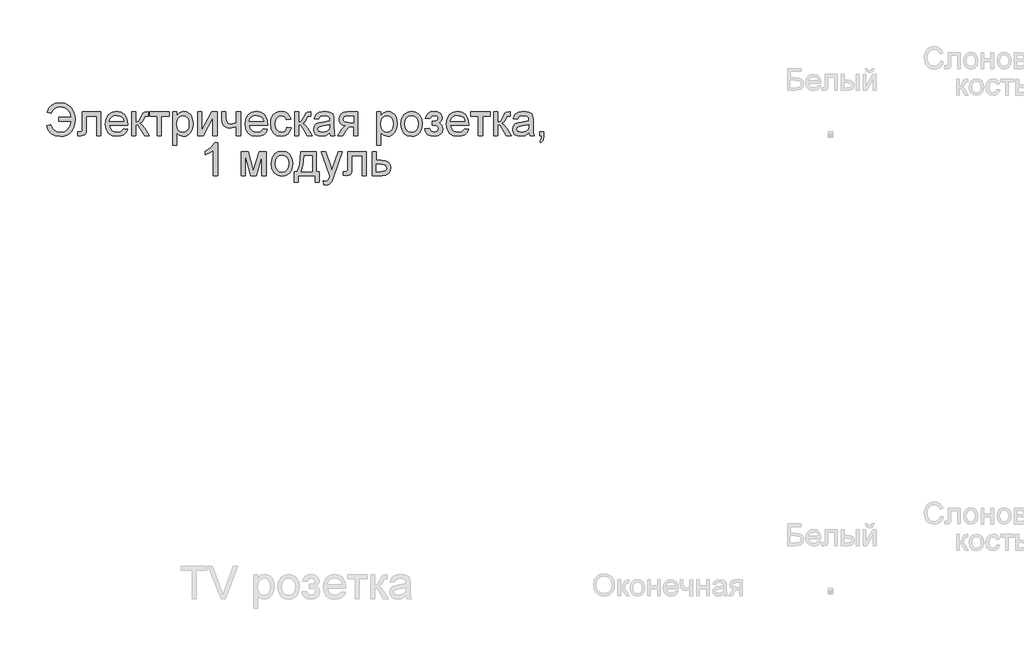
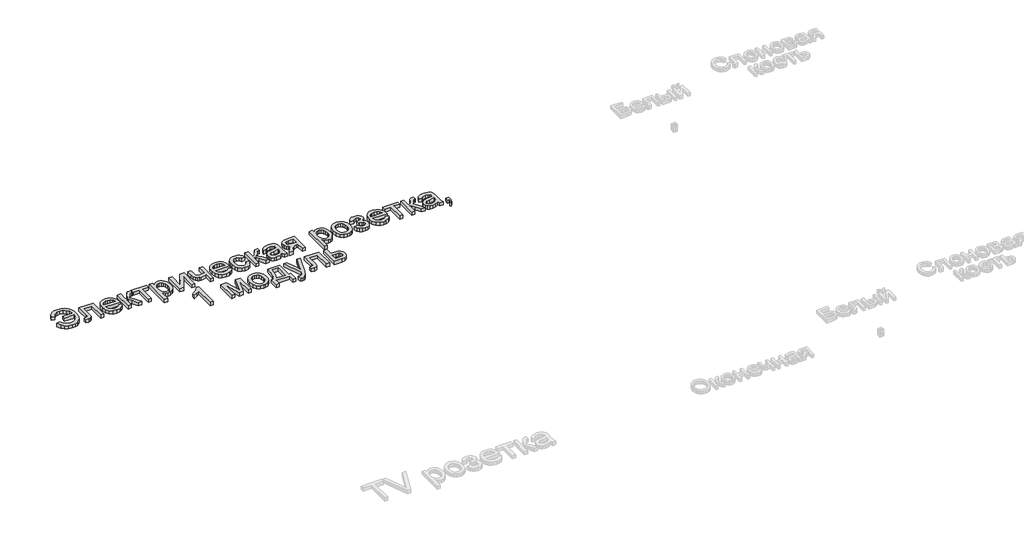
# One storey, part 10 of 47: 1 proxy.
"""IFC4 building model written with IfcOpenShell, lengths in millimetres."""

from ifc_helpers import new_model, si_unit, origin, origin_with_axes, place, context, project, spatial, polyline, outline, extrude, element, save

model = new_model("IFC4")

# Units and contexts
model_context = context("Model", 3, world=origin())
ifc_project = project(units=[si_unit("LENGTHUNIT", "METRE", prefix="MILLI")], contexts=[model_context])

# Site, building, storey
site = spatial("IfcSite", under=ifc_project)
building = spatial("IfcBuilding", under=site)
storey = spatial("IfcBuildingStorey", under=building, Name="Этаж 01", Elevation=0.0)

# Proxy
placement = place(None, origin())
element("IfcBuildingElementProxy", 1, Name="150 мм Arial", ObjectType="150 мм Arial", at=placement, inside=storey, context=model_context, shape_type="SweptSolid", body=[
    extrude(outline(polyline([(-3554.1831348, -13254.0696827), (-3497.6764603, -13254.0696827), (-3501.8243298, -13234.6409148), (-3511.7663407, -13219.6911103), (-3527.0518376, -13210.1583681), (-3547.2301651, -13206.9807873), (-3562.4397863, -13208.8937737), (-3574.5546002, -13214.6327328), (-3583.5746069, -13224.1976647), (-3589.4998063, -13237.5885693), (-3608.3353645, -13232.8796798), (-3600.2787488, -13214.1360921), (-3587.1453615, -13199.9910294), (-3569.5697992, -13191.1066792), (-3548.1866582, -13188.1452292), (-3527.6496459, -13190.8629574), (-3510.1844481, -13199.0161421), (-3496.3106984, -13211.3953713), (-3486.54803, -13226.7912328), (-3480.7676841, -13244.5921228), (-3478.8409022, -13264.1864376), (-3482.3265841, -13295.0747296), (-3495.0644981, -13320.6379297), (-3504.8846481, -13330.656966), (-3516.981068, -13337.8134204), (-3531.3537577, -13342.1072931), (-3548.0027172, -13343.5385839), (-3570.5446865, -13340.4483752), (-3588.5065249, -13331.1777489), (-3601.8882325, -13315.7267051), (-3610.6898092, -13294.0952438), (-3591.8542511, -13289.3863542), (-3585.4898926, -13304.837398), (-3575.7042315, -13315.8738579), (-3562.4972679, -13322.4957338), (-3545.8690017, -13324.7030258), (-3527.0886258, -13321.235738), (-3512.0238581, -13310.8338746), (-3501.8335269, -13294.4171405), (-3497.6764603, -13272.9052409), (-3554.1831348, -13272.9052409), (-3554.1831348, -13254.0696827)])), origin_with_axes(), (0.0, 0.0, 1.0), 20.0),
    extrude(outline(polyline([(-3445.8786754, -13230.525235), (-3361.1186637, -13230.525235), (-3361.1186637, -13341.0737746), (-3379.9542219, -13341.0737746), (-3379.9542219, -13249.3607932), (-3427.0431172, -13249.3607932), (-3427.0431172, -13302.1518595), (-3428.3123101, -13326.5056476), (-3435.2836739, -13336.7879493), (-3451.7647873, -13341.1841392), (-3467.0686783, -13340.227646), (-3467.0686783, -13322.348581), (-3458.6441806, -13322.348581), (-3450.1277124, -13321.1897527), (-3446.724804, -13317.5109328), (-3445.8786754, -13301.0850017), (-3445.8786754, -13230.525235)])), origin_with_axes(), (0.0, 0.0, 1.0), 20.0),
    extrude(outline(polyline([(-3255.3893783, -13308.2219124), (-3236.9217021, -13310.5763572), (-3243.5757677, -13324.4914936), (-3254.1937618, -13334.8933571), (-3268.5365611, -13341.3772772), (-3286.3650423, -13343.5385839), (-3308.4655531, -13339.8091802), (-3325.4708984, -13328.620969), (-3336.3142202, -13310.7005173), (-3339.9286608, -13286.7743921), (-3336.277432, -13262.043525), (-3325.3237456, -13243.5482576), (-3308.5483266, -13232.0151571), (-3287.4319001, -13228.1707903), (-3266.9730626, -13232.0059601), (-3250.6253064, -13243.5114694), (-3239.9061448, -13261.9699486), (-3236.3330909, -13286.6640275), (-3236.4434555, -13291.740799), (-3321.0931026, -13291.740799), (-3317.8327484, -13305.8398765), (-3310.2589779, -13316.2049517), (-3299.3282841, -13322.5785073), (-3285.9971603, -13324.7030258), (-3267.5294841, -13320.7666884), (-3255.3893783, -13308.2219124)]), holes=[polyline([(-3321.0931026, -13272.9052409), (-3255.1686491, -13272.9052409), (-3257.7162319, -13262.9540329), (-3262.71023, -13255.8355163), (-3273.6915075, -13249.2136404), (-3287.5054765, -13247.0063484), (-3300.2020038, -13248.7675835), (-3310.7004363, -13254.0512886), (-3317.9982953, -13262.2872468), (-3321.0931026, -13272.9052409)])]), origin_with_axes(), (0.0, 0.0, 1.0), 20.0),
    extrude(outline(polyline([(-3217.4975328, -13230.525235), (-3198.6619746, -13230.525235), (-3198.6619746, -13277.6141304), (-3186.0436222, -13274.229616), (-3175.7061381, -13254.5111411), (-3167.1160935, -13237.4965988), (-3159.5377244, -13231.9599748), (-3145.7605437, -13230.525235), (-3142.1553002, -13230.525235), (-3142.1553002, -13249.4711578), (-3147.2320717, -13249.3607932), (-3156.4291216, -13251.3473559), (-3162.9038447, -13263.7449792), (-3170.5006079, -13277.1542779), (-3181.1507917, -13283.7209715), (-3169.2682032, -13291.0510203), (-3157.606344, -13306.492867), (-3137.4464106, -13341.1841392), (-3158.8571427, -13341.1841392), (-3178.6124059, -13307.228631), (-3188.5452198, -13292.8628391), (-3198.6619746, -13289.3863542), (-3198.6619746, -13341.1841392), (-3217.4975328, -13341.1841392), (-3217.4975328, -13230.525235)])), origin_with_axes(), (0.0, 0.0, 1.0), 20.0),
    extrude(outline(polyline([(-3135.0919659, -13230.525235), (-3045.6230646, -13230.525235), (-3045.6230646, -13249.3607932), (-3080.9397362, -13249.3607932), (-3080.9397362, -13341.1841392), (-3099.7752943, -13341.1841392), (-3099.7752943, -13249.3607932), (-3135.0919659, -13249.3607932), (-3135.0919659, -13230.525235)])), origin_with_axes(), (0.0, 0.0, 1.0), 20.0),
    extrude(outline(polyline([(-3029.1419512, -13383.564145), (-3029.1419512, -13230.525235), (-3010.3063931, -13230.525235), (-3010.3063931, -13248.9929112), (-2997.2833705, -13233.3763205), (-2979.6986111, -13228.1707903), (-2966.960697, -13229.9918061), (-2955.8230696, -13235.4548538), (-2946.7547784, -13244.2288393), (-2940.224873, -13255.9826691), (-2934.9641605, -13285.0085585), (-2936.449484, -13301.1171914), (-2940.9054547, -13315.52437), (-2948.1895182, -13327.4989289), (-2958.1591203, -13336.3097027), (-2969.7703958, -13341.7313636), (-2981.9794795, -13343.5385839), (-2998.3686224, -13338.7009357), (-3010.3063931, -13326.4688594), (-3010.3063931, -13383.564145), (-3029.1419512, -13383.564145)]), holes=[polyline([(-3010.3063931, -13286.7376039), (-3008.2692465, -13303.6233875), (-3002.1578069, -13315.4323995), (-2993.1400995, -13322.3853692), (-2982.3841497, -13324.7030258), (-2971.4534559, -13322.3025958), (-2962.2058222, -13315.1013057), (-2955.9012445, -13302.8600323), (-2953.7997186, -13285.3396523), (-2955.8506608, -13268.5458392), (-2962.0034871, -13256.5712803), (-2971.007399, -13249.3975814), (-2981.6115975, -13247.0063484), (-2992.2571827, -13249.5493327), (-3001.6059839, -13257.1782856), (-3008.1312908, -13269.6540837), (-3010.3063931, -13286.7376039)])]), origin_with_axes(), (0.0, 0.0, 1.0), 20.0),
    extrude(outline(polyline([(-2913.7741576, -13230.525235), (-2894.9385994, -13230.525235), (-2894.9385994, -13314.9173647), (-2848.6590444, -13230.525235), (-2824.3052563, -13230.525235), (-2824.3052563, -13341.1841392), (-2843.1408145, -13341.1841392), (-2843.1408145, -13257.3070443), (-2889.1260639, -13341.1841392), (-2913.7741576, -13341.1841392), (-2913.7741576, -13230.525235)])), origin_with_axes(), (0.0, 0.0, 1.0), 20.0),
    extrude(outline(polyline([(-2803.1152534, -13230.525235), (-2784.2796953, -13230.525235), (-2784.2796953, -13251.7520261), (-2782.752985, -13271.6544421), (-2775.4137392, -13282.4333845), (-2760.8456122, -13287.0319095), (-2734.8363551, -13281.3297386), (-2734.8363551, -13230.525235), (-2716.000797, -13230.525235), (-2716.000797, -13341.1841392), (-2734.8363551, -13341.1841392), (-2734.8363551, -13299.3927445), (-2765.8855955, -13305.8674676), (-2777.2761418, -13304.179809), (-2787.2411453, -13299.116833), (-2795.0080539, -13291.6074418), (-2799.8043155, -13282.5805373), (-2803.1152534, -13261.0594406), (-2803.1152534, -13230.525235)])), origin_with_axes(), (0.0, 0.0, 1.0), 20.0),
    extrude(outline(polyline([(-2610.2715115, -13308.2219124), (-2591.8038354, -13310.5763572), (-2598.457901, -13324.4914936), (-2609.0758951, -13334.8933571), (-2623.4186943, -13341.3772772), (-2641.2471755, -13343.5385839), (-2663.3476864, -13339.8091802), (-2680.3530316, -13328.620969), (-2691.1963534, -13310.7005173), (-2694.810794, -13286.7743921), (-2691.1595652, -13262.043525), (-2680.2058788, -13243.5482576), (-2663.4304598, -13232.0151571), (-2642.3140333, -13228.1707903), (-2621.8551959, -13232.0059601), (-2605.5074397, -13243.5114694), (-2594.7882781, -13261.9699486), (-2591.2152242, -13286.6640275), (-2591.3255888, -13291.740799), (-2675.9752359, -13291.740799), (-2672.7148817, -13305.8398765), (-2665.1411111, -13316.2049517), (-2654.2104173, -13322.5785073), (-2640.8792935, -13324.7030258), (-2622.4116174, -13320.7666884), (-2610.2715115, -13308.2219124)]), holes=[polyline([(-2675.9752359, -13272.9052409), (-2610.0507823, -13272.9052409), (-2612.5983652, -13262.9540329), (-2617.5923632, -13255.8355163), (-2628.5736408, -13249.2136404), (-2642.3876097, -13247.0063484), (-2655.0841371, -13248.7675835), (-2665.5825695, -13254.0512886), (-2672.8804286, -13262.2872468), (-2675.9752359, -13272.9052409)])]), origin_with_axes(), (0.0, 0.0, 1.0), 20.0),
    extrude(outline(polyline([(-2501.746323, -13301.1585781), (-2482.9107648, -13303.5130229), (-2488.1622803, -13320.2654492), (-2498.0307148, -13332.9251884), (-2511.5871663, -13340.885235), (-2527.9027328, -13343.5385839), (-2547.938506, -13339.8367714), (-2563.6056805, -13328.7313336), (-2573.7178368, -13310.7097144), (-2577.0885556, -13286.2593573), (-2575.6492173, -13269.4977339), (-2571.3312024, -13254.9709936), (-2564.0655329, -13243.2401565), (-2553.7832312, -13234.8662426), (-2541.482177, -13229.8446533), (-2528.1602502, -13228.1707903), (-2512.2447554, -13230.4700527), (-2499.5206369, -13237.3678401), (-2490.3925649, -13248.4962705), (-2485.2652096, -13263.4874618), (-2504.1007677, -13265.8419066), (-2512.8379651, -13251.733632), (-2528.0130974, -13247.0063484), (-2540.1853929, -13249.333202), (-2549.8468938, -13256.3137629), (-2556.1514715, -13268.32511), (-2558.2529974, -13285.7443225), (-2556.1974568, -13303.3980597), (-2550.0308348, -13315.4507936), (-2540.5440779, -13322.3899677), (-2528.5281322, -13324.7030258), (-2518.7746608, -13323.259089), (-2510.7778259, -13318.9272785), (-2504.9606919, -13311.5972297), (-2501.746323, -13301.1585781)])), origin_with_axes(), (0.0, 0.0, 1.0), 20.0),
    extrude(outline(polyline([(-2466.4296514, -13230.525235), (-2447.5940933, -13230.525235), (-2447.5940933, -13277.6141304), (-2434.9757408, -13274.229616), (-2424.6382568, -13254.5111411), (-2416.0482122, -13237.4965988), (-2408.4698431, -13231.9599748), (-2394.6926624, -13230.525235), (-2391.0874188, -13230.525235), (-2391.0874188, -13249.4711578), (-2396.1641903, -13249.3607932), (-2405.3612402, -13251.3473559), (-2411.8359633, -13263.7449792), (-2419.4327265, -13277.1542779), (-2430.0829103, -13283.7209715), (-2418.2003219, -13291.0510203), (-2406.5384626, -13306.492867), (-2386.3785293, -13341.1841392), (-2407.7892614, -13341.1841392), (-2427.5445245, -13307.228631), (-2437.4773384, -13292.8628391), (-2447.5940933, -13289.3863542), (-2447.5940933, -13341.1841392), (-2466.4296514, -13341.1841392), (-2466.4296514, -13230.525235)])), origin_with_axes(), (0.0, 0.0, 1.0), 20.0),
    extrude(outline(polyline([(-2303.9729624, -13327.0574706), (-2322.2383034, -13339.8229758), (-2342.4166309, -13343.5385839), (-2358.1573817, -13341.3037008), (-2369.7686572, -13334.5990515), (-2376.9285605, -13324.4179172), (-2379.315195, -13311.7535796), (-2375.7099514, -13296.8543587), (-2366.23699, -13286.0386281), (-2353.0484205, -13279.8582106), (-2336.7512481, -13277.0255192), (-2304.083327, -13270.5507961), (-2303.9729624, -13266.3569413), (-2305.2697464, -13257.9508378), (-2309.1600985, -13252.4510019), (-2317.8605077, -13248.3675118), (-2329.9822194, -13247.0063484), (-2349.0385068, -13250.6299861), (-2358.125192, -13263.4874618), (-2376.9607502, -13261.133017), (-2368.812164, -13242.7389173), (-2352.404627, -13231.9599748), (-2327.5541982, -13228.1707903), (-2304.7271204, -13231.5185164), (-2291.8328565, -13239.92462), (-2286.0571092, -13252.7085193), (-2285.1374042, -13269.1896327), (-2285.1374042, -13292.6237158), (-2284.180911, -13325.3468193), (-2280.4285147, -13341.1841392), (-2299.2640728, -13341.1841392), (-2303.9729624, -13327.0574706)]), holes=[polyline([(-2303.9729624, -13289.3863542), (-2334.3600152, -13295.1621016), (-2350.565217, -13298.2155221), (-2357.9044629, -13303.1819291), (-2360.4796368, -13310.4292044), (-2354.8694364, -13320.6195356), (-2338.4067171, -13324.7030258), (-2319.3504298, -13320.1964713), (-2307.0631711, -13309.2887702), (-2304.083327, -13294.7206432), (-2303.9729624, -13289.3863542)])]), origin_with_axes(), (0.0, 0.0, 1.0), 20.0),
    extrude(outline(polyline([(-2174.4785001, -13230.525235), (-2174.4785001, -13341.1841392), (-2193.3140582, -13341.1841392), (-2193.3140582, -13298.8041333), (-2203.5779659, -13298.8041333), (-2217.5574817, -13301.1953663), (-2230.6908689, -13317.2718095), (-2245.7004543, -13341.1841392), (-2267.4790684, -13341.1841392), (-2248.5699339, -13310.9442392), (-2240.2190126, -13300.0917203), (-2232.5302789, -13295.2724662), (-2245.4061487, -13291.3269318), (-2254.4560458, -13283.8313361), (-2259.8087288, -13273.8617341), (-2261.5929565, -13262.4941804), (-2259.1557383, -13249.5999165), (-2251.8440836, -13239.3911911), (-2239.9155099, -13232.741724), (-2223.6275346, -13230.525235), (-2174.4785001, -13230.525235)]), holes=[polyline([(-2193.3140582, -13249.3607932), (-2218.1460929, -13249.3607932), (-2230.9713789, -13250.4506436), (-2238.2508439, -13253.7201948), (-2242.7573984, -13263.9289202), (-2241.0973309, -13271.1072176), (-2236.1171283, -13276.0874201), (-2212.5910748, -13279.9685752), (-2193.3140582, -13279.9685752), (-2193.3140582, -13249.3607932)])]), origin_with_axes(), (0.0, 0.0, 1.0), 20.0),
    extrude(outline(polyline([(-2087.3640436, -13383.564145), (-2087.3640436, -13230.525235), (-2068.5284854, -13230.525235), (-2068.5284854, -13248.9929112), (-2055.5054628, -13233.3763205), (-2037.9207034, -13228.1707903), (-2025.1827894, -13229.9918061), (-2014.045162, -13235.4548538), (-2004.9768708, -13244.2288393), (-1998.4469654, -13255.9826691), (-1993.1862528, -13285.0085585), (-1994.6715764, -13301.1171914), (-1999.1275471, -13315.52437), (-2006.4116106, -13327.4989289), (-2016.3812126, -13336.3097027), (-2027.9924881, -13341.7313636), (-2040.2015718, -13343.5385839), (-2056.5907147, -13338.7009357), (-2068.5284854, -13326.4688594), (-2068.5284854, -13383.564145), (-2087.3640436, -13383.564145)]), holes=[polyline([(-2068.5284854, -13286.7376039), (-2066.4913389, -13303.6233875), (-2060.3798993, -13315.4323995), (-2051.3621918, -13322.3853692), (-2040.606242, -13324.7030258), (-2029.6755482, -13322.3025958), (-2020.4279146, -13315.1013057), (-2014.1233369, -13302.8600323), (-2012.021811, -13285.3396523), (-2014.0727531, -13268.5458392), (-2020.2255795, -13256.5712803), (-2029.2294913, -13249.3975814), (-2039.8336898, -13247.0063484), (-2050.4792751, -13249.5493327), (-2059.8280763, -13257.1782856), (-2066.3533831, -13269.6540837), (-2068.5284854, -13286.7376039)])]), origin_with_axes(), (0.0, 0.0, 1.0), 20.0),
    extrude(outline(polyline([(-1976.7051394, -13285.8546871), (-1972.6308464, -13259.1740454), (-1960.4079671, -13240.4212607), (-1945.3064112, -13231.2334079), (-1927.2250111, -13228.1707903), (-1907.4375583, -13231.900194), (-1891.6324281, -13243.0884052), (-1881.2719514, -13260.852507), (-1877.8184591, -13284.3095827), (-1879.3451694, -13303.3382789), (-1883.9253003, -13317.8236325), (-1891.4254944, -13328.6715528), (-1901.7123947, -13336.7879493), (-1913.9306755, -13341.8509253), (-1927.2250111, -13343.5385839), (-1947.2515872, -13339.8229758), (-1963.0383233, -13328.6761513), (-1973.2884354, -13310.539569), (-1976.7051394, -13285.8546871)]), holes=[polyline([(-1957.8695813, -13285.8178989), (-1955.6898805, -13302.8646308), (-1949.150778, -13315.0093352), (-1939.3099346, -13322.2796031), (-1927.2250111, -13324.7030258), (-1915.1952699, -13322.2658076), (-1905.3728206, -13314.9541529), (-1898.8337181, -13302.6485002), (-1896.6540173, -13285.2292877), (-1898.8475137, -13268.6791964), (-1905.4280029, -13256.700039), (-1915.2642477, -13249.429771), (-1927.2250111, -13247.0063484), (-1939.3099346, -13249.420574), (-1949.150778, -13256.6632508), (-1955.6898805, -13268.780364), (-1957.8695813, -13285.8178989)])]), origin_with_axes(), (0.0, 0.0, 1.0), 20.0),
    extrude(outline(polyline([(-1830.7295638, -13291.740799), (-1830.7295638, -13272.9052409), (-1815.8671312, -13272.1694769), (-1808.3623385, -13268.2515336), (-1804.8306713, -13260.0661592), (-1809.5579549, -13250.5564097), (-1821.7532431, -13247.0063484), (-1834.3532014, -13250.5380156), (-1842.5017876, -13261.133017), (-1863.6917905, -13258.7785722), (-1858.0723931, -13245.3876676), (-1849.5283337, -13235.8227358), (-1838.0596125, -13230.0837766), (-1823.6662295, -13228.1707903), (-1807.9208801, -13230.5022424), (-1796.0015034, -13237.4965988), (-1788.4967107, -13247.7283168), (-1785.9951131, -13259.7718536), (-1789.5543715, -13271.4705011), (-1800.2321464, -13280.5203982), (-1787.7793408, -13292.2558338), (-1783.6406684, -13309.1416174), (-1786.2664261, -13323.0061701), (-1794.1436993, -13333.9920462), (-1806.7390592, -13341.1519495), (-1823.5190767, -13343.5385839), (-1839.9312122, -13341.331292), (-1852.4897838, -13334.7094161), (-1861.1947915, -13323.6729562), (-1866.0462353, -13308.2219124), (-1844.8562324, -13305.8674676), (-1836.3581583, -13319.773407), (-1821.7164549, -13324.7030258), (-1807.9576683, -13319.9757421), (-1802.4762265, -13307.8908186), (-1805.879135, -13297.9947929), (-1813.1264103, -13292.6972922), (-1827.0507438, -13291.6304344), (-1830.7295638, -13291.740799)])), origin_with_axes(), (0.0, 0.0, 1.0), 20.0),
    extrude(outline(polyline([(-1682.6202725, -13308.2219124), (-1664.1525963, -13310.5763572), (-1670.8066619, -13324.4914936), (-1681.424656, -13334.8933571), (-1695.7674553, -13341.3772772), (-1713.5959365, -13343.5385839), (-1735.6964474, -13339.8091802), (-1752.7017926, -13328.620969), (-1763.5451144, -13310.7005173), (-1767.159555, -13286.7743921), (-1763.5083262, -13262.043525), (-1752.5546398, -13243.5482576), (-1735.7792208, -13232.0151571), (-1714.6627943, -13228.1707903), (-1694.2039568, -13232.0059601), (-1677.8562007, -13243.5114694), (-1667.137039, -13261.9699486), (-1663.5639852, -13286.6640275), (-1663.6743498, -13291.740799), (-1748.3239968, -13291.740799), (-1745.0636427, -13305.8398765), (-1737.4898721, -13316.2049517), (-1726.5591783, -13322.5785073), (-1713.2280545, -13324.7030258), (-1694.7603783, -13320.7666884), (-1682.6202725, -13308.2219124)]), holes=[polyline([(-1748.3239968, -13272.9052409), (-1682.3995433, -13272.9052409), (-1684.9471261, -13262.9540329), (-1689.9411242, -13255.8355163), (-1700.9224018, -13249.2136404), (-1714.7363707, -13247.0063484), (-1727.432898, -13248.7675835), (-1737.9313305, -13254.0512886), (-1745.2291896, -13262.2872468), (-1748.3239968, -13272.9052409)])]), origin_with_axes(), (0.0, 0.0, 1.0), 20.0),
    extrude(outline(polyline([(-1654.1462061, -13230.525235), (-1564.6773048, -13230.525235), (-1564.6773048, -13249.3607932), (-1599.9939764, -13249.3607932), (-1599.9939764, -13341.1841392), (-1618.8295345, -13341.1841392), (-1618.8295345, -13249.3607932), (-1654.1462061, -13249.3607932), (-1654.1462061, -13230.525235)])), origin_with_axes(), (0.0, 0.0, 1.0), 20.0),
    extrude(outline(polyline([(-1548.1961915, -13230.525235), (-1529.3606333, -13230.525235), (-1529.3606333, -13277.6141304), (-1516.7422809, -13274.229616), (-1506.4047968, -13254.5111411), (-1497.8147522, -13237.4965988), (-1490.2363831, -13231.9599748), (-1476.4592024, -13230.525235), (-1472.8539589, -13230.525235), (-1472.8539589, -13249.4711578), (-1477.9307304, -13249.3607932), (-1487.1277803, -13251.3473559), (-1493.6025034, -13263.7449792), (-1501.1992666, -13277.1542779), (-1511.8494503, -13283.7209715), (-1499.9668619, -13291.0510203), (-1488.3050027, -13306.492867), (-1468.1450693, -13341.1841392), (-1489.5558014, -13341.1841392), (-1509.3110646, -13307.228631), (-1519.2438784, -13292.8628391), (-1529.3606333, -13289.3863542), (-1529.3606333, -13341.1841392), (-1548.1961915, -13341.1841392), (-1548.1961915, -13230.525235)])), origin_with_axes(), (0.0, 0.0, 1.0), 20.0),
    extrude(outline(polyline([(-1385.7395024, -13327.0574706), (-1404.0048435, -13339.8229758), (-1424.1831709, -13343.5385839), (-1439.9239218, -13341.3037008), (-1451.5351972, -13334.5990515), (-1458.6951006, -13324.4179172), (-1461.081735, -13311.7535796), (-1457.4764915, -13296.8543587), (-1448.0035301, -13286.0386281), (-1434.8149606, -13279.8582106), (-1418.5177882, -13277.0255192), (-1385.849867, -13270.5507961), (-1385.7395024, -13266.3569413), (-1387.0362864, -13257.9508378), (-1390.9266385, -13252.4510019), (-1399.6270477, -13248.3675118), (-1411.7487595, -13247.0063484), (-1430.8050468, -13250.6299861), (-1439.8917321, -13263.4874618), (-1458.7272902, -13261.133017), (-1450.578704, -13242.7389173), (-1434.1711671, -13231.9599748), (-1409.3207383, -13228.1707903), (-1386.4936605, -13231.5185164), (-1373.5993966, -13239.92462), (-1367.8236492, -13252.7085193), (-1366.9039442, -13269.1896327), (-1366.9039442, -13292.6237158), (-1365.9474511, -13325.3468193), (-1362.1950547, -13341.1841392), (-1381.0306129, -13341.1841392), (-1385.7395024, -13327.0574706)]), holes=[polyline([(-1385.7395024, -13289.3863542), (-1416.1265552, -13295.1621016), (-1432.3317571, -13298.2155221), (-1439.6710029, -13303.1819291), (-1442.2461769, -13310.4292044), (-1436.6359764, -13320.6195356), (-1420.1732571, -13324.7030258), (-1401.1169698, -13320.1964713), (-1388.8297112, -13309.2887702), (-1385.849867, -13294.7206432), (-1385.7395024, -13289.3863542)])]), origin_with_axes(), (0.0, 0.0, 1.0), 20.0),
    extrude(outline(polyline([(-1336.2961622, -13341.1841392), (-1336.2961622, -13322.348581), (-1317.4606041, -13322.348581), (-1317.4606041, -13341.1841392), (-1320.8451184, -13360.4427616), (-1331.5872727, -13371.7919212), (-1336.2961622, -13364.7285869), (-1329.3799807, -13356.5983948), (-1326.9151714, -13341.1841392), (-1336.2961622, -13341.1841392)])), origin_with_axes(), (0.0, 0.0, 1.0), 20.0),
    extrude(outline(polyline([(-2821.9508116, -13524.1463659), (-2840.7863697, -13524.1463659), (-2840.7863697, -13406.7184331), (-2858.6286465, -13419.428756), (-2878.457486, -13428.9385056), (-2878.457486, -13411.133017), (-2850.8479423, -13393.5114694), (-2834.0909174, -13373.4619007), (-2821.9508116, -13373.4619007), (-2821.9508116, -13524.1463659)])), origin_with_axes(), (0.0, 0.0, 1.0), 20.0),
    extrude(outline(polyline([(-2713.6463522, -13413.4874618), (-2681.2359484, -13413.4874618), (-2656.2567609, -13502.0734462), (-2629.3277989, -13413.4874618), (-2598.2785585, -13413.4874618), (-2598.2785585, -13524.1463659), (-2617.1141167, -13524.1463659), (-2617.1141167, -13435.0453467), (-2644.1902315, -13524.1463659), (-2668.9119016, -13524.1463659), (-2694.810794, -13430.7779156), (-2694.810794, -13524.1463659), (-2713.6463522, -13524.1463659), (-2713.6463522, -13413.4874618)])), origin_with_axes(), (0.0, 0.0, 1.0), 20.0),
    extrude(outline(polyline([(-2574.7341108, -13468.8169139), (-2570.6598177, -13442.1362722), (-2558.4369384, -13423.3834875), (-2543.3353825, -13414.1956346), (-2525.2539825, -13411.133017), (-2505.4665296, -13414.8624207), (-2489.6613994, -13426.0506319), (-2479.3009227, -13443.8147338), (-2475.8474305, -13467.2718095), (-2477.3741408, -13486.3005057), (-2481.9542716, -13500.7858592), (-2489.4544658, -13511.6337796), (-2499.7413661, -13519.7501761), (-2511.9596469, -13524.8131521), (-2525.2539825, -13526.5008107), (-2545.2805586, -13522.7852026), (-2561.0672947, -13511.6383781), (-2571.3174068, -13493.5017957), (-2574.7341108, -13468.8169139)]), holes=[polyline([(-2555.8985527, -13468.7801257), (-2553.7188518, -13485.8268576), (-2547.1797494, -13497.971562), (-2537.338906, -13505.2418299), (-2525.2539825, -13507.6652526), (-2513.2242412, -13505.2280343), (-2503.4017919, -13497.9163797), (-2496.8626895, -13485.6107269), (-2494.6829887, -13468.1915145), (-2496.8764851, -13451.6414232), (-2503.4569742, -13439.6622657), (-2513.2932191, -13432.3919978), (-2525.2539825, -13429.9685752), (-2537.338906, -13432.3828008), (-2547.1797494, -13439.6254775), (-2553.7188518, -13451.7425908), (-2555.8985527, -13468.7801257)])]), origin_with_axes(), (0.0, 0.0, 1.0), 20.0),
    extrude(outline(polyline([(-2438.1763142, -13413.4874618), (-2367.5429711, -13413.4874618), (-2367.5429711, -13505.3108078), (-2353.4163025, -13505.3108078), (-2353.4163025, -13554.7541479), (-2372.2518607, -13554.7541479), (-2372.2518607, -13524.1463659), (-2449.948538, -13524.1463659), (-2449.948538, -13554.7541479), (-2468.7840962, -13554.7541479), (-2468.7840962, -13505.3108078), (-2457.0118724, -13505.3108078), (-2448.4540174, -13489.8459684), (-2442.4621394, -13469.387131), (-2438.1763142, -13413.4874618)]), holes=[polyline([(-2421.6952008, -13432.3230199), (-2426.1097848, -13475.2364547), (-2435.8218694, -13505.3108078), (-2386.3785293, -13505.3108078), (-2386.3785293, -13432.3230199), (-2421.6952008, -13432.3230199)])]), origin_with_axes(), (0.0, 0.0, 1.0), 20.0),
    extrude(outline(polyline([(-2332.2262996, -13566.5263718), (-2334.5807444, -13548.3897894), (-2325.0158125, -13550.0452584), (-2316.07628, -13547.9667251), (-2310.5948383, -13542.1725837), (-2305.4444903, -13528.3034325), (-2303.9729624, -13523.7416957), (-2343.9985234, -13413.4874618), (-2324.1328957, -13413.4874618), (-2302.9061046, -13474.923755), (-2295.5116765, -13499.4982723), (-2288.1172484, -13477.7932345), (-2266.3018461, -13413.4874618), (-2246.5833711, -13413.4874618), (-2285.100616, -13526.7951163), (-2295.1070063, -13551.3696336), (-2306.0331015, -13564.6501736), (-2320.7115931, -13568.8808166), (-2332.2262996, -13566.5263718)])), origin_with_axes(), (0.0, 0.0, 1.0), 20.0),
    extrude(outline(polyline([(-2221.5673954, -13413.4874618), (-2136.8073837, -13413.4874618), (-2136.8073837, -13524.0360013), (-2155.6429419, -13524.0360013), (-2155.6429419, -13432.3230199), (-2202.7318373, -13432.3230199), (-2202.7318373, -13485.1140862), (-2204.0010302, -13509.4678743), (-2210.972394, -13519.7501761), (-2227.4535074, -13524.1463659), (-2242.7573984, -13523.1898727), (-2242.7573984, -13505.3108078), (-2234.3329007, -13505.3108078), (-2225.8164325, -13504.1519795), (-2222.413524, -13500.4731595), (-2221.5673954, -13484.0472285), (-2221.5673954, -13413.4874618)])), origin_with_axes(), (0.0, 0.0, 1.0), 20.0),
    extrude(outline(polyline([(-2108.5540465, -13413.4874618), (-2089.7184884, -13413.4874618), (-2089.7184884, -13453.5130229), (-2068.0134507, -13453.5130229), (-2049.1962866, -13455.8720662), (-2035.2719531, -13462.949196), (-2026.6635144, -13474.1741954), (-2023.7940348, -13488.9768472), (-2026.2358516, -13502.4551238), (-2033.5613018, -13513.827276), (-2046.2578292, -13521.5665934), (-2064.8128773, -13524.1463659), (-2108.5540465, -13524.1463659), (-2108.5540465, -13413.4874618)]), holes=[polyline([(-2089.7184884, -13505.3108078), (-2072.133729, -13505.3108078), (-2049.4170158, -13501.3560763), (-2044.3264487, -13496.2931004), (-2042.629593, -13489.0136354), (-2047.6511822, -13477.4253525), (-2055.7215935, -13473.6177739), (-2069.8896488, -13472.348581), (-2089.7184884, -13472.348581), (-2089.7184884, -13505.3108078)])]), origin_with_axes(), (0.0, 0.0, 1.0), 20.0),
])

save(model, "model.ifc")
